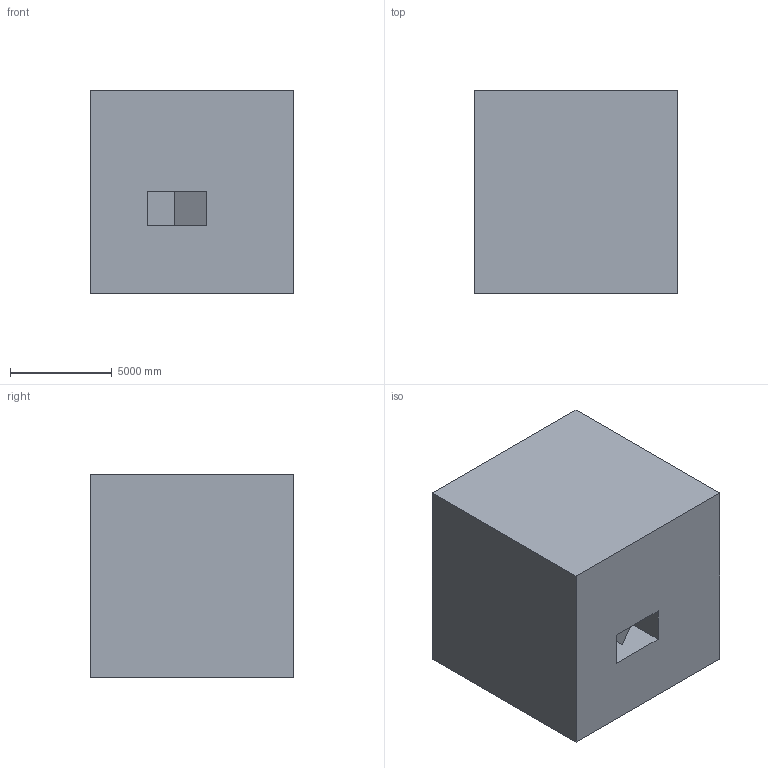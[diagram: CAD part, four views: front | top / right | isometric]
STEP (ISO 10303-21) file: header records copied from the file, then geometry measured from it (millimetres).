
FILE_DESCRIPTION (( 'STEP AP203' ), '1' );
FILE_NAME ('1187.STEP', '2022-08-18T13:06:13', ( 'user' ), ( '' ), 'SwSTEP 2.0', 'SolidWorks 2021', '' );
FILE_SCHEMA (( 'CONFIG_CONTROL_DESIGN' ));
Length unit declared in the file: centimetre
Products named in the file (1): 1187
Bounding box: 10000 x 10000 x 10000 mm (x, y, z)
Volume: 922493615764.3 mm3; surface area: 719995913 mm2
Topology: 1 solids, 1 shells, 15 faces, 39 edges, 26 vertices
Faces by surface type: plane 15
Entity records: 534 total; most frequent: CARTESIAN_POINT 81, ORIENTED_EDGE 78, DIRECTION 71, VECTOR 39, LINE 39, EDGE_CURVE 39, VERTEX_POINT 26, EDGE_LOOP 17
